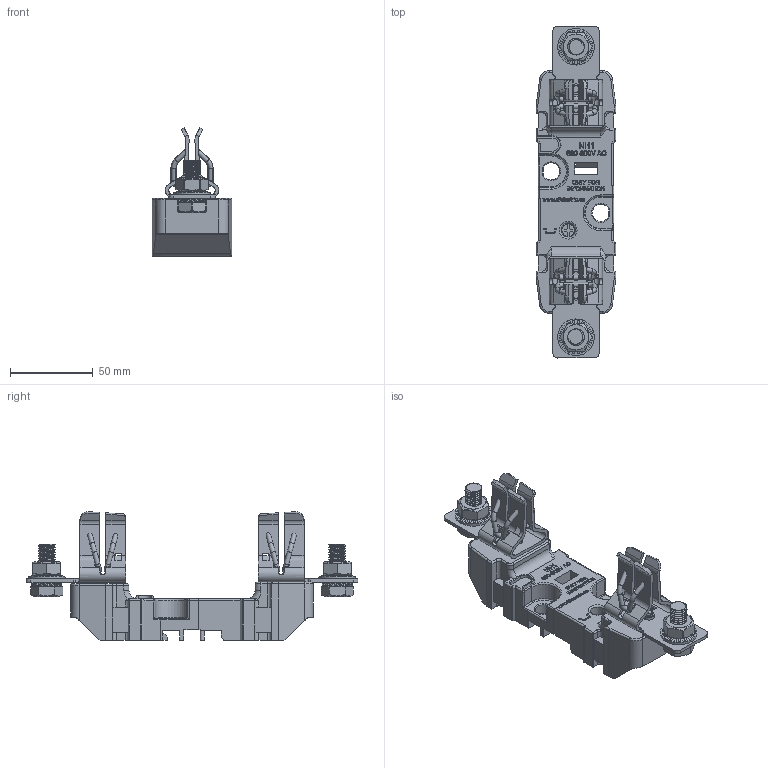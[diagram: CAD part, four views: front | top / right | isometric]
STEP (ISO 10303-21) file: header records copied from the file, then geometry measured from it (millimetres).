
FILE_DESCRIPTION(/* description */ (''),/* implementation_level */ '2;1');
FILE_NAME(/* name */ 'MOD_NH1_1P.stp',/* time_stamp */ '2020-10-08T10:25:27+02:00',/* author */ (''),/* organization */ (''),/* preprocessor_version */ 'ST-DEVELOPER v16',/* originating_system */ 'SIEMENS PLM Software NX 11.0',/* authorisation */ '');
FILE_SCHEMA (('AUTOMOTIVE_DESIGN { 1 0 10303 214 3 1 1 1 }'));
Products named in the file (1): MOD_NH1_1P
Bounding box: 48 x 200 x 77.5 mm (x, y, z)
Volume: 187747.6 mm3; surface area: 54653.8 mm2
Topology: 4 solids, 6 shells, 3216 faces, 8392 edges, 5261 vertices
Faces by surface type: plane 1396, cylinder 761, bspline 587, extrusion 190, sphere 184, torus 68, cone 30
Full cylindrical faces by diameter (mm): 2.8 x20, 5.2 x1, 6.5 x4, 7 x1, 8.5 x1, 8.7 x1, 15.6 x2, 22 x2
Entity records: 130744 total; most frequent: CARTESIAN_POINT 58272, ORIENTED_EDGE 16114, DIRECTION 13230, EDGE_CURVE 8057, VERTEX_POINT 5091, AXIS2_PLACEMENT_3D 4520, VECTOR 4190, LINE 4000
